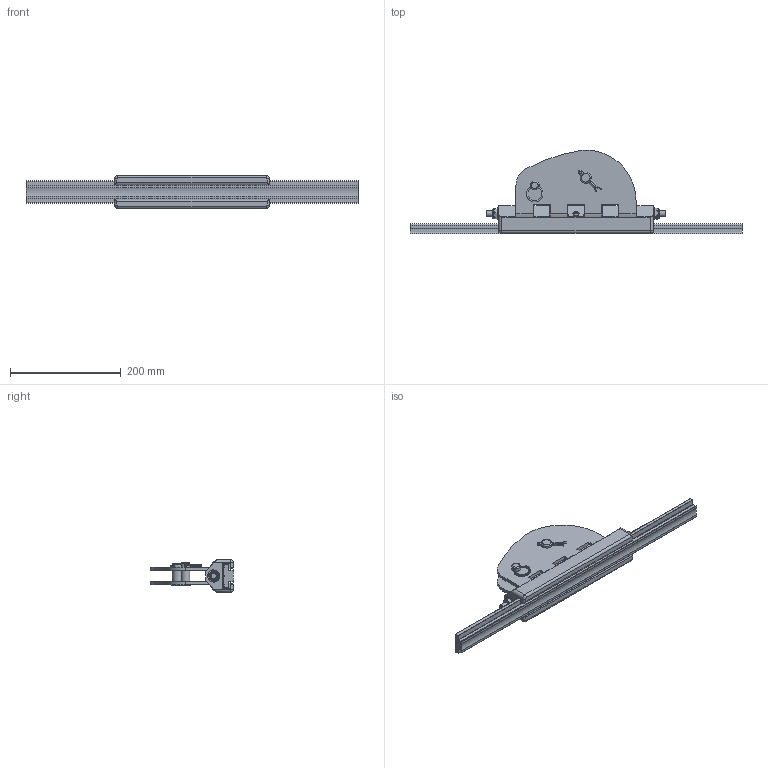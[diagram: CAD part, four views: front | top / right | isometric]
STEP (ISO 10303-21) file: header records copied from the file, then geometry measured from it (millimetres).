
FILE_DESCRIPTION(/* description */ (''),/* implementation_level */ '2;1');
FILE_NAME(/* name */ '\\SERVER2K12\Disegni CAD\Cad Library\3D - STP\Cars\Ttrack\672.005.stp',/* time_stamp */ '2020-07-07T11:13:13+02:00',/* author */ ('francesca'),/* organization */ (''),/* preprocessor_version */ 'ST-DEVELOPER v18.1',/* originating_system */ 'Autodesk Inventor 2021',/* authorisation */ '');
FILE_SCHEMA (('AUTOMOTIVE_DESIGN { 1 0 10303 214 3 1 1 }'));
Length unit declared in the file: millimetre
Products named in the file (1): 17113004
Bounding box: 600 x 151.5 x 59 mm (x, y, z)
Volume: 1006664.3 mm3; surface area: 325448.5 mm2
Topology: 26 solids, 26 shells, 534 faces, 1425 edges, 954 vertices
Faces by surface type: plane 236, cylinder 204, cone 52, torus 26, bspline 16
Full cylindrical faces by diameter (mm): 4 x2, 4.2 x2, 5 x4, 8.376 x2, 9 x2, 9.5 x2, 10 x1, 10.1 x5, 10.2 x6, 10.4 x8, 10.5 x2, 11.2 x2, 11.3 x2, 15.85 x1, 16 x2, 16.5 x2, 19.635 x2, 19.65 x1, 19.85 x1, 22 x10, 23.65 x1
Entity records: 19911 total; most frequent: CARTESIAN_POINT 6290, DIRECTION 2892, ORIENTED_EDGE 2808, EDGE_CURVE 1404, AXIS2_PLACEMENT_3D 1113, VERTEX_POINT 926, LINE 666, VECTOR 666
